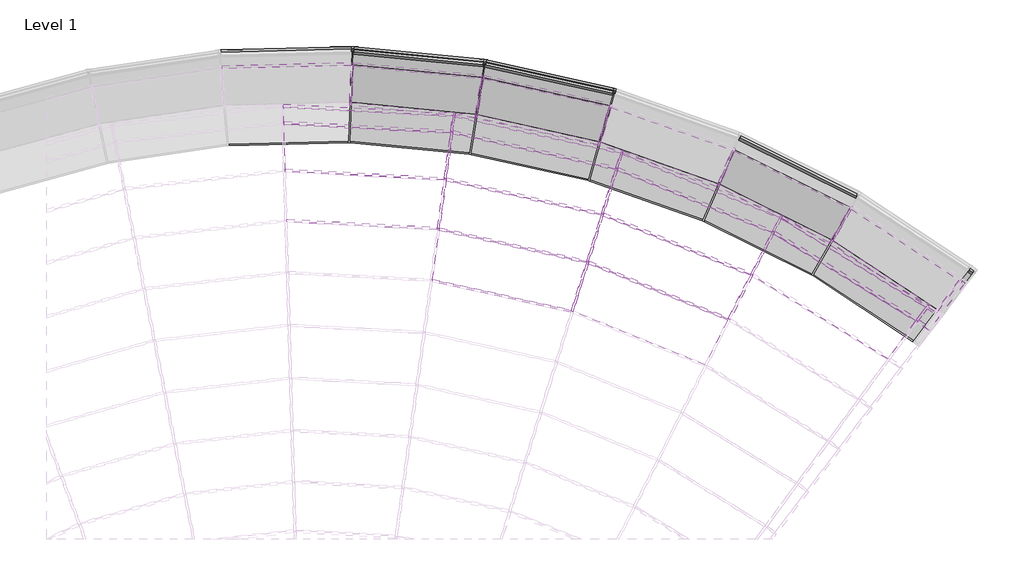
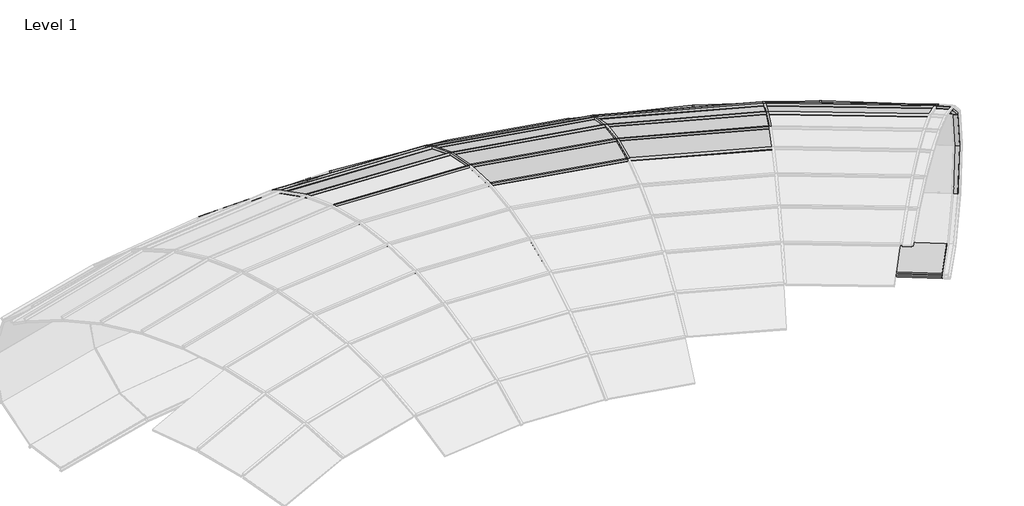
# One storey, part 12 of 23: 71 members, 34 plates.
"""IFC4 building model written with IfcOpenShell, lengths in millimetres."""

from ifc_helpers import new_model, si_unit, origin, place, context, project, spatial, transform, mapped, element, save
from components import member_6de91377, member_1c681369, member_20199af6, member_f0155a20, member_cc44513a, member_775132e8, member_b171f0c8, member_07455e61, member_515abc7c, member_6834bcaf, member_a3fa0b53, member_b335b832, member_0cd36c09, member_d0a40a1c, member_ff9adfd2, member_8c9da58c, member_391bee44, member_01ebdf2a, member_d6b8231b, system_panel_glazed_05378adf, system_panel_glazed_d39a2736, system_panel_glazed_45b67513, system_panel_glazed_45b4e97c, system_panel_glazed_73e5d392, system_panel_glazed_9a1bcf3f, system_panel_glazed_7c15174c, system_panel_glazed_a2a57e74, system_panel_glazed_cdd05a29, system_panel_glazed_56180ac8, system_panel_glazed_9e14ac5f, system_panel_glazed_7dd4ad5a, system_panel_glazed_672f498d

model = new_model("IFC4")

# Units and contexts
model_context = context("Model", 3, world=origin())
ifc_project = project(units=[si_unit("LENGTHUNIT", "METRE", prefix="MILLI")], contexts=[model_context])

# Site, building, storey
site = spatial("IfcSite", under=ifc_project)
building = spatial("IfcBuilding", under=site)
storey = spatial("IfcBuildingStorey", under=building, Name="Level 1", Elevation=0.0)

# Members
placement = place(None, origin())
member_shape = member_6de91377(model_context)
element("IfcMember", 1, ObjectType="Rectangular Mullion : 1\" Square", at=placement, inside=storey, context=model_context, shape_type="MappedRepresentation", body=[
    mapped(member_shape, transform((2866.4116937, -3633.2019198, 2806.2019711), x_axis=(0.2147917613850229, 0.9644166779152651, -0.1541589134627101), y_axis=(0.03351267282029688, 0.15047216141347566, 0.9880460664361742), z_axis=(0.9760847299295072, -0.21739043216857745, 0.0))),
])
member_2_shape = member_1c681369(model_context)
element("IfcMember", 2, ObjectType="Rectangular Mullion : 1\" Square", at=placement, inside=storey, context=model_context, shape_type="MappedRepresentation", body=[
    mapped(member_2_shape, transform((1331.5307397, -2685.4647622, 2676.0506073), x_axis=(0.05134218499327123, 0.9613900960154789, -0.2703572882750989), y_axis=(0.014417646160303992, 0.26997258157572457, 0.9627600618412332), z_axis=(0.9985770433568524, -0.05332812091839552, 0.0))),
])
element("IfcMember", 3, ObjectType="Rectangular Mullion : 1\" Square", at=placement, inside=storey, context=model_context, shape_type="MappedRepresentation", body=[
    mapped(member_2_shape, transform((3043.563615, -3064.6159726, 2676.0506073), x_axis=(0.2092948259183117, 0.9397353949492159, -0.270357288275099), y_axis=(0.05877308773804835, 0.26389162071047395, 0.9627600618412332), z_axis=(0.9760847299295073, -0.21739043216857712, 0.0))),
])
element("IfcMember", 4, ObjectType="Rectangular Mullion : 1\" Square", at=placement, inside=storey, context=model_context, shape_type="MappedRepresentation", body=[
    mapped(member_2_shape, transform((4669.5518199, -3721.1025024, 2676.0506073), x_axis=(0.36150811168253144, 0.8923109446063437, -0.270357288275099), y_axis=(0.10151683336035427, 0.2505741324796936, 0.9627600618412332), z_axis=(0.9268258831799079, -0.37549138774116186, 0.0))),
])
member_3_shape = member_20199af6(model_context)
element("IfcMember", 5, ObjectType="Rectangular Mullion : 1\" Square", at=placement, inside=storey, context=model_context, shape_type="MappedRepresentation", body=[
    mapped(member_3_shape, transform((1409.7407637, -2114.9891047, 2475.91846), x_axis=(0.04926663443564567, 0.9225251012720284, -0.3827796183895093), y_axis=(0.020412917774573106, 0.38223493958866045, 0.9238396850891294), z_axis=(0.9985770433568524, -0.05332812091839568, 0.0))),
])
element("IfcMember", 6, ObjectType="Rectangular Mullion : 1\" Square", at=placement, inside=storey, context=model_context, shape_type="MappedRepresentation", body=[
    mapped(member_3_shape, transform((3214.8459331, -2514.8690753, 2475.91846), x_axis=(0.2008339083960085, 0.9017458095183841, -0.3827796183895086), y_axis=(0.08321262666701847, 0.3736253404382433, 0.9238396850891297), z_axis=(0.9760847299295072, -0.21739043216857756, 0.0))),
])
element("IfcMember", 7, ObjectType="Rectangular Mullion : 1\" Square", at=placement, inside=storey, context=model_context, shape_type="MappedRepresentation", body=[
    mapped(member_3_shape, transform((4929.2094692, -3207.1597149, 2475.91846), x_axis=(0.34689384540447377, 0.8562385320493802, -0.3827796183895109), y_axis=(0.14373045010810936, 0.35477005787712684, 0.9238396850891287), z_axis=(0.9268258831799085, -0.37549138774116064, 0.0))),
])
member_4_shape = member_f0155a20(model_context)
element("IfcMember", 8, ObjectType="Rectangular Mullion : 1\" Square", at=placement, inside=storey, context=model_context, shape_type="MappedRepresentation", body=[
    mapped(member_4_shape, transform((1484.158, -1572.1786095, 2208.6526723), x_axis=(0.046491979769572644, 0.8705692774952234, -0.4898444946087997), y_axis=(0.026122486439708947, 0.48914746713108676, 0.8718098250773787), z_axis=(0.9985770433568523, -0.05332812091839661, 0.0))),
])
element("IfcMember", 9, ObjectType="Rectangular Mullion : 1\" Square", at=placement, inside=storey, context=model_context, shape_type="MappedRepresentation", body=[
    mapped(member_4_shape, transform((3377.8219316, -1991.782101, 2208.6526723), x_axis=(0.1895231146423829, 0.8509602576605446, -0.4898444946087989), y_axis=(0.10648750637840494, 0.4781297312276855, 0.8718098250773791), z_axis=(0.9760847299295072, -0.2173904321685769, 0.0))),
])
element("IfcMember", 10, ObjectType="Rectangular Mullion : 1\" Square", at=placement, inside=storey, context=model_context, shape_type="MappedRepresentation", body=[
    mapped(member_4_shape, transform((5176.2750457, -2718.1405336, 2208.6526723), x_axis=(0.3273570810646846, 0.8080159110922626, -0.4898444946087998), y_axis=(0.18393238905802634, 0.45400055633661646, 0.8718098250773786), z_axis=(0.926825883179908, -0.375491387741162, 0.0))),
])
element("IfcMember", 11, ObjectType="Rectangular Mullion : 1\" Square", at=placement, inside=storey, context=model_context, shape_type="MappedRepresentation", body=[
    mapped(member_4_shape, transform((6830.1995383, -3731.3354549, 2208.6526723), x_axis=(0.45621414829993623, 0.7429138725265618, -0.4898444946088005), y_axis=(0.25633341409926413, 0.41742162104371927, 0.8718098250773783), z_axis=(0.8521512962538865, -0.5232954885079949, 0.0))),
])
member_5_shape = member_cc44513a(model_context)
element("IfcMember", 12, ObjectType="Rectangular Mullion : 1\" Square", at=placement, inside=storey, context=model_context, shape_type="MappedRepresentation", body=[
    mapped(member_5_shape, transform((6979.6758413, -3841.6645549, 2208.6526723), x_axis=(0.52163414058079, 0.6975731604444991, -0.49121228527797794), y_axis=(0.2941691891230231, 0.3933878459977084, 0.8710398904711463), z_axis=(0.8008509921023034, -0.5988636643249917, 0.0))),
])
member_6_shape = member_775132e8(model_context)
element("IfcMember", 13, ObjectType="Rectangular Mullion : 1\" Square", at=placement, inside=storey, context=model_context, shape_type="MappedRepresentation", body=[
    mapped(member_6_shape, transform((1512.2259527, -1367.4467482, 2085.6089632), x_axis=(0.045779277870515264, 0.8572238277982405, -0.5129050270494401), y_axis=(0.02735226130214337, 0.5121751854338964, 0.8584453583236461), z_axis=(0.9985770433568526, -0.05332812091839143, 0.0))),
])
element("IfcMember", 14, ObjectType="Rectangular Mullion : 1\" Square", at=placement, inside=storey, context=model_context, shape_type="MappedRepresentation", body=[
    mapped(member_6_shape, transform((3439.291597, -1794.4893611, 2085.6089632), x_axis=(0.18661780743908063, 0.8379154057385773, -0.5129050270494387), y_axis=(0.11150064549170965, 0.500638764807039, 0.8584453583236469), z_axis=(0.9760847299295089, -0.21739043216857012, 0.0))),
])
element("IfcMember", 15, ObjectType="Rectangular Mullion : 1\" Square", at=placement, inside=storey, context=model_context, shape_type="MappedRepresentation", body=[
    mapped(member_6_shape, transform((5269.4607813, -2533.6971449, 2085.6089632), x_axis=(0.3223388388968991, 0.7956293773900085, -0.5129050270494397), y_axis=(0.1925914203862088, 0.47537365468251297, 0.8584453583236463), z_axis=(0.9268258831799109, -0.37549138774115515, 0.0))),
])
element("IfcMember", 16, ObjectType="Rectangular Mullion : 1\" Square", at=placement, inside=storey, context=model_context, shape_type="MappedRepresentation", body=[
    mapped(member_6_shape, transform((6952.5459728, -3564.7992878, 2085.6089632), x_axis=(0.4492205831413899, 0.7315253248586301, -0.5129050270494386), y_axis=(0.2684008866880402, 0.43707268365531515, 0.858445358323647), z_axis=(0.8521512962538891, -0.5232954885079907, 0.0))),
])
member_7_shape = member_b171f0c8(model_context)
element("IfcMember", 17, ObjectType="Rectangular Mullion : 1\" Square", at=placement, inside=storey, context=model_context, shape_type="MappedRepresentation", body=[
    mapped(member_7_shape, transform((347.4829914, -610.5149365, 1116.1918244), x_axis=(-0.0006524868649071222, 0.026521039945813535, -0.9996480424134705), y_axis=(-0.024586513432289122, 0.9993456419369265, 0.02652906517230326), z_axis=(0.9996974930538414, 0.02459516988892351, 0.0))),
])
element("IfcMember", 18, ObjectType="Rectangular Mullion : 1\" Square", at=placement, inside=storey, context=model_context, shape_type="MappedRepresentation", body=[
    mapped(member_7_shape, transform((1867.0706775, -756.638217, 1116.1918244), x_axis=(0.0025659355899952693, 0.026404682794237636, -0.9996480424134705), y_axis=(0.09668763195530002, 0.9949611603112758, 0.026529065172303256), z_axis=(0.9953114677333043, -0.09672167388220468, 0.0))),
])
element("IfcMember", 19, ObjectType="Rectangular Mullion : 1\" Square", at=placement, inside=storey, context=model_context, shape_type="MappedRepresentation", body=[
    mapped(member_7_shape, transform((3357.7551818, -1085.8166758, 1116.1918244), x_axis=(0.005746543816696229, 0.025899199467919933, -0.9996480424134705), y_axis=(0.21653689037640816, 0.9759139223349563, 0.02652906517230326), z_axis=(0.9762575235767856, -0.2166131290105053, 0.0))),
])
member_8_shape = member_07455e61(model_context)
element("IfcMember", 20, ObjectType="Rectangular Mullion : 1\" Square", at=placement, inside=storey, context=model_context, shape_type="MappedRepresentation", body=[
    mapped(member_8_shape, transform((341.871143, -765.7378742, 526.7119632), x_axis=(0.012706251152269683, -0.5164594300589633, -0.856217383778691), y_axis=(-0.021058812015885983, 0.8559583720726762, -0.5166157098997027), z_axis=(0.9996974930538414, 0.024595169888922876, 0.0))),
])
element("IfcMember", 21, ObjectType="Rectangular Mullion : 1\" Square", at=placement, inside=storey, context=model_context, shape_type="MappedRepresentation", body=[
    mapped(member_8_shape, transform((1842.6914644, -910.0373931, 526.7119632), x_axis=(-0.049967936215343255, -0.5141935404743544, -0.8562173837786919), y_axis=(0.0828147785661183, 0.8522029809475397, -0.5166157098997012), z_axis=(0.995311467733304, -0.09672167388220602, 0.0))),
])
element("IfcMember", 22, ObjectType="Rectangular Mullion : 1\" Square", at=placement, inside=storey, context=model_context, shape_type="MappedRepresentation", body=[
    mapped(member_8_shape, transform((3314.9678808, -1235.1314444, 526.7119632), x_axis=(-0.11190574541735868, -0.5043499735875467, -0.856217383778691), y_axis=(0.1854679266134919, 0.8358886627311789, -0.5166157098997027), z_axis=(0.9762575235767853, -0.21661312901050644, 0.0))),
])
member_9_shape = member_515abc7c(model_context)
element("IfcMember", 23, ObjectType="Rectangular Mullion : 1\" Square", at=placement, inside=storey, context=model_context, shape_type="MappedRepresentation", body=[
    mapped(member_9_shape, transform((340.752181, -796.6882063, 1696.6281859), x_axis=(-0.013804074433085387, 0.5610816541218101, -0.8276453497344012), y_axis=(-0.02035607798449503, 0.8273949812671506, 0.5612514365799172), z_axis=(0.9996974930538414, 0.024595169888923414, 0.0))),
])
element("IfcMember", 24, ObjectType="Rectangular Mullion : 1\" Square", at=placement, inside=storey, context=model_context, shape_type="MappedRepresentation", body=[
    mapped(member_9_shape, transform((1837.8304255, -940.6240802, 1696.6281859), x_axis=(0.054285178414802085, 0.5586199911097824, -0.8276453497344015), y_axis=(0.08005124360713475, 0.8237649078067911, 0.5612514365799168), z_axis=(0.9953114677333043, -0.09672167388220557, 0.0))),
])
element("IfcMember", 25, ObjectType="Rectangular Mullion : 1\" Square", at=placement, inside=storey, context=model_context, shape_type="MappedRepresentation", body=[
    mapped(member_9_shape, transform((3306.4364022, -1264.9037302, 1696.6281859), x_axis=(0.12157442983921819, 0.547925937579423, -0.8276453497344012), y_axis=(0.17927884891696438, 0.8079949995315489, 0.5612514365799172), z_axis=(0.9762575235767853, -0.21661312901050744, 0.0))),
])
member_10_shape = member_6834bcaf(model_context)
element("IfcMember", 26, ObjectType="Rectangular Mullion : 1\" Square", at=placement, inside=storey, context=model_context, shape_type="MappedRepresentation", body=[
    mapped(member_10_shape, transform((325.6802554, -1213.5755484, 113.4427618), x_axis=(0.022043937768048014, -0.89599988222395, -0.4435067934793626), y_axis=(-0.010908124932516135, 0.4433726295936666, -0.8962710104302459), z_axis=(0.9996974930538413, 0.024595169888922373, 0.0))),
])
element("IfcMember", 27, ObjectType="Rectangular Mullion : 1\" Square", at=placement, inside=storey, context=model_context, shape_type="MappedRepresentation", body=[
    mapped(member_10_shape, transform((1772.3543722, -1352.6132856, 113.4427618), x_axis=(-0.08668883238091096, -0.892068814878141, -0.44350679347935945), y_axis=(0.04289671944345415, 0.44142739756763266, -0.8962710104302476), z_axis=(0.9953114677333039, -0.09672167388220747, 0.0))),
])
element("IfcMember", 28, ObjectType="Rectangular Mullion : 1\" Square", at=placement, inside=storey, context=model_context, shape_type="MappedRepresentation", body=[
    mapped(member_10_shape, transform((3191.5211425, -1665.9233083, 113.4427618), x_axis=(-0.19414406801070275, -0.8749913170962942, -0.443506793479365), y_axis=(0.0960693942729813, 0.43297684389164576, -0.8962710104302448), z_axis=(0.9762575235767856, -0.2166131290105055, 0.0))),
])
element("IfcMember", 29, ObjectType="Rectangular Mullion : 1\" Square", at=placement, inside=storey, context=model_context, shape_type="MappedRepresentation", body=[
    mapped(member_10_shape, transform((4562.2662862, -2148.8883624, 113.4427618), x_axis=(-0.29873819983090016, -0.8450190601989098, -0.44350679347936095), y_axis=(0.14782629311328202, 0.41814550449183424, -0.8962710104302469), z_axis=(0.9428164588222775, -0.3333123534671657, 0.0))),
])
element("IfcMember", 30, ObjectType="Rectangular Mullion : 1\" Square", at=placement, inside=storey, context=model_context, shape_type="MappedRepresentation", body=[
    mapped(member_10_shape, transform((5864.3891132, -2794.3909852, 113.4427618), x_axis=(-0.3989298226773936, -0.8025937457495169, -0.44350679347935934), y_axis=(0.1974046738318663, 0.39715194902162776, -0.8962710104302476), z_axis=(0.8954810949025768, -0.44509954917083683, 0.0))),
])
member_11_shape = member_a3fa0b53(model_context)
element("IfcMember", 31, ObjectType="Rectangular Mullion : 1\" Square", at=placement, inside=storey, context=model_context, shape_type="MappedRepresentation", body=[
    mapped(member_11_shape, transform((308.208576, -1696.8397434, 0.0), x_axis=(0.023942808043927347, -0.9731815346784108, -0.22878907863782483), y_axis=(-0.005627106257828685, 0.2287198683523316, -0.9734760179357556), z_axis=(0.9996974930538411, 0.02459516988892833, 0.0))),
])
element("IfcMember", 32, ObjectType="Rectangular Mullion : 1\" Square", at=placement, inside=storey, context=model_context, shape_type="MappedRepresentation", body=[
    mapped(member_11_shape, transform((1696.4532137, -1830.199462, 0.0), x_axis=(-0.09415622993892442, -0.96891184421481, -0.22878907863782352), y_axis=(0.022128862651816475, 0.22771639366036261, -0.9734760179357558), z_axis=(0.9953114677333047, -0.09672167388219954, 0.0))),
])
element("IfcMember", 33, ObjectType="Rectangular Mullion : 1\" Square", at=placement, inside=storey, context=model_context, shape_type="MappedRepresentation", body=[
    mapped(member_11_shape, transform((3058.3090614, -2130.793272, 0.0), x_axis=(-0.21086768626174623, -0.9503632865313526, -0.22878907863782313), y_axis=(0.04955871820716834, 0.22335705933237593, -0.9734760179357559), z_axis=(0.9762575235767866, -0.21661312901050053, 0.0))),
])
element("IfcMember", 34, ObjectType="Rectangular Mullion : 1\" Square", at=placement, inside=storey, context=model_context, shape_type="MappedRepresentation", body=[
    mapped(member_11_shape, transform((4373.7064307, -2594.1913184, 0.0), x_axis=(-0.32447158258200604, -0.9178092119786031, -0.22878907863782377), y_axis=(0.07625822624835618, 0.215706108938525, -0.9734760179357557), z_axis=(0.9428164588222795, -0.33331235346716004, 0.0))),
])
element("IfcMember", 35, ObjectType="Rectangular Mullion : 1\" Square", at=placement, inside=storey, context=model_context, shape_type="MappedRepresentation", body=[
    mapped(member_11_shape, transform((5623.2602924, -3213.5644976, 0.0), x_axis=(-0.43329373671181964, -0.8717293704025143, -0.2287890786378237), y_axis=(0.10183391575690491, 0.2048762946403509, -0.9734760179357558), z_axis=(0.8954810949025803, -0.44509954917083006, 0.0))),
])
element("IfcMember", 36, ObjectType="Rectangular Mullion : 1\" Square", at=placement, inside=storey, context=model_context, shape_type="MappedRepresentation", body=[
    mapped(member_11_shape, transform((6788.5559541, -3979.7850987, 0.0), x_axis=(-0.5357304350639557, -0.8128028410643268, -0.228789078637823), y_axis=(0.12590887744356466, 0.19102721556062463, -0.9734760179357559), z_axis=(0.8349490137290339, -0.5503273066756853, 0.0))),
])
member_12_shape = member_b335b832(model_context)
element("IfcMember", 37, ObjectType="Rectangular Mullion : 1\" Square", at=placement, inside=storey, context=model_context, shape_type="MappedRepresentation", body=[
    mapped(member_12_shape, transform((349.1305982, -1266.6655463, 2085.6089632), x_axis=(-0.07441584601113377, -0.7657740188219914, 0.6387898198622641), y_axis=(0.061784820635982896, 0.6357948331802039, 0.7693812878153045), z_axis=(-0.9953114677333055, 0.09672167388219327, 0.0))),
])
element("IfcMember", 38, ObjectType="Rectangular Mullion : 1\" Square", at=placement, inside=storey, context=model_context, shape_type="MappedRepresentation", body=[
    mapped(member_12_shape, transform((1789.1988854, -1408.1536208, 2085.6089632), x_axis=(-0.16665808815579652, -0.7511142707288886, 0.6387898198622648), y_axis=(0.13837026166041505, 0.6236233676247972, 0.7693812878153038), z_axis=(-0.9762575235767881, 0.21661312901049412, 0.0))),
])
element("IfcMember", 39, ObjectType="Rectangular Mullion : 1\" Square", at=placement, inside=storey, context=model_context, shape_type="MappedRepresentation", body=[
    mapped(member_12_shape, transform((3201.5115884, -1723.0954821, 2085.6089632), x_axis=(-0.25644428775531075, -0.7253853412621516, 0.6387898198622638), y_axis=(0.21291653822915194, 0.6022615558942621, 0.7693812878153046), z_axis=(-0.9428164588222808, 0.3333123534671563, 0.0))),
])
element("IfcMember", 40, ObjectType="Rectangular Mullion : 1\" Square", at=placement, inside=storey, context=model_context, shape_type="MappedRepresentation", body=[
    mapped(member_12_shape, transform((4565.2554354, -2206.8498276, 2085.6089632), x_axis=(-0.3424512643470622, -0.6889663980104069, 0.6387898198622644), y_axis=(0.28432506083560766, 0.5720242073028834, 0.7693812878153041), z_axis=(-0.8954810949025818, 0.44509954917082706, 0.0))),
])
element("IfcMember", 41, ObjectType="Rectangular Mullion : 1\" Square", at=placement, inside=storey, context=model_context, shape_type="MappedRepresentation", body=[
    mapped(member_12_shape, transform((5860.3329145, -2852.2875629, 2085.6089632), x_axis=(-0.42341153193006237, -0.6423941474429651, 0.6387898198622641), y_axis=(0.35154348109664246, 0.533356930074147, 0.7693812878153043), z_axis=(-0.8349490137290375, 0.5503273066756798, 0.0))),
])
member_13_shape = member_0cd36c09(model_context)
element("IfcMember", 42, ObjectType="Rectangular Mullion : 1\" Square", at=placement, inside=storey, context=model_context, shape_type="MappedRepresentation", body=[
    mapped(member_13_shape, transform((1344.2126682, -2686.1420293, 2676.0506073), x_axis=(0.9907327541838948, -0.13582565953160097, 0.0), y_axis=(0.0445916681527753, 0.3252583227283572, 0.9445732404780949), z_axis=(-0.12829728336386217, -0.9358196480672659, 0.32830076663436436))),
])
element("IfcMember", 43, ObjectType="Rectangular Mullion : 1\" Square", at=placement, inside=storey, context=model_context, shape_type="MappedRepresentation", body=[
    mapped(member_13_shape, transform((2878.8079698, -3635.9627782, 2806.2019711), x_axis=(0.9547335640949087, -0.29746230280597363, 0.0), y_axis=(0.06350906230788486, 0.20383837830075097, 0.9769424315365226), z_axis=(-0.2906035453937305, -0.9327197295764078, 0.2135028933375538))),
])
element("IfcMember", 44, ObjectType="Rectangular Mullion : 1\" Square", at=placement, inside=storey, context=model_context, shape_type="MappedRepresentation", body=[
    mapped(member_13_shape, transform((3055.959891, -3067.3768311, 2676.0506073), x_axis=(0.9547335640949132, -0.29746230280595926, 0.0), y_axis=(0.09765710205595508, 0.3134397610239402, 0.9445732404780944), z_axis=(-0.28097493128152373, -0.9018157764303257, 0.3283007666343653))),
])
element("IfcMember", 45, ObjectType="Rectangular Mullion : 1\" Square", at=placement, inside=storey, context=model_context, shape_type="MappedRepresentation", body=[
    mapped(member_13_shape, transform((4681.3225086, -3725.871243, 2676.0506073), x_axis=(0.8925533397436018, -0.4509418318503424, 0.0), y_axis=(0.14804454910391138, 0.2930259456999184, 0.9445732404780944), z_axis=(-0.4259475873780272, -0.8430820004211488, 0.32830076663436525))),
])
member_14_shape = member_d0a40a1c(model_context)
element("IfcMember", 46, ObjectType="Rectangular Mullion : 1\" Square", at=placement, inside=storey, context=model_context, shape_type="MappedRepresentation", body=[
    mapped(member_14_shape, transform((1422.4226921, -2115.6663718, 2475.91846), x_axis=(0.9907327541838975, -0.1358256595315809, 0.0), y_axis=(0.059549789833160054, 0.43436510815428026, 0.8987662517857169), z_axis=(-0.1220755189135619, -0.8904371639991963, 0.4384281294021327))),
])
element("IfcMember", 47, ObjectType="Rectangular Mullion : 1\" Square", at=placement, inside=storey, context=model_context, shape_type="MappedRepresentation", body=[
    mapped(member_14_shape, transform((3227.2422092, -2517.6299338, 2475.91846), x_axis=(0.954733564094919, -0.2974623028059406, 0.0), y_axis=(0.13041584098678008, 0.41858205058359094, 0.8987662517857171), z_axis=(-0.2673490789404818, -0.858082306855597, 0.43842812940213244))),
])
element("IfcMember", 48, ObjectType="Rectangular Mullion : 1\" Square", at=placement, inside=storey, context=model_context, shape_type="MappedRepresentation", body=[
    mapped(member_14_shape, transform((4940.9801579, -3211.9284555, 2475.91846), x_axis=(0.8925533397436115, -0.4509418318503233, 0.0), y_axis=(0.19770558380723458, 0.39132049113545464, 0.8987662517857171), z_axis=(-0.4052912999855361, -0.8021968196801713, 0.43842812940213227))),
])
member_15_shape = member_ff9adfd2(model_context)
element("IfcMember", 49, ObjectType="Rectangular Mullion : 1\" Square", at=placement, inside=storey, context=model_context, shape_type="MappedRepresentation", body=[
    mapped(member_15_shape, transform((1496.8399284, -1572.8558767, 2208.6526723), x_axis=(0.9907327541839, -0.13582565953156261, 0.0), y_axis=(0.06948914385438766, 0.5068642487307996, 0.8592205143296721), z_axis=(-0.11670419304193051, -0.8512579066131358, 0.5116054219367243))),
])
element("IfcMember", 50, ObjectType="Rectangular Mullion : 1\" Square", at=placement, inside=storey, context=model_context, shape_type="MappedRepresentation", body=[
    mapped(member_15_shape, transform((3390.2182077, -1994.5429595, 2208.6526723), x_axis=(0.9547335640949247, -0.2974623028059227, 0.0), y_axis=(0.15218332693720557, 0.48844686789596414, 0.8592205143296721), z_axis=(-0.255585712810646, -0.8203266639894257, 0.5116054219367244))),
])
element("IfcMember", 51, ObjectType="Rectangular Mullion : 1\" Square", at=placement, inside=storey, context=model_context, shape_type="MappedRepresentation", body=[
    mapped(member_15_shape, transform((5188.0457344, -2722.9092742, 2208.6526723), x_axis=(0.8925533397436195, -0.4509418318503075, 0.0), y_axis=(0.2307042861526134, 0.4566351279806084, 0.8592205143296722), z_axis=(-0.38745847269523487, -0.7669001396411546, 0.5116054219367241))),
])
element("IfcMember", 52, ObjectType="Rectangular Mullion : 1\" Square", at=placement, inside=storey, context=model_context, shape_type="MappedRepresentation", body=[
    mapped(member_15_shape, transform((6841.0218598, -3737.9813076, 2208.6526723), x_axis=(0.8058972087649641, -0.5920554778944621, 0.0), y_axis=(0.3028987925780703, 0.4123013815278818, 0.8592205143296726), z_axis=(-0.5087062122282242, -0.6924434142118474, 0.5116054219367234))),
])
member_16_shape = member_8c9da58c(model_context)
element("IfcMember", 53, ObjectType="Rectangular Mullion : 1\" Square", at=placement, inside=storey, context=model_context, shape_type="MappedRepresentation", body=[
    mapped(member_16_shape, transform((353.4483391, -796.3758477, 1696.6281859), x_axis=(0.9993471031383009, -0.03612986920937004, 0.0), y_axis=(0.03440139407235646, 0.951537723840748, 0.30560187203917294), z_axis=(-0.01104135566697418, -0.30540234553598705, 0.9521593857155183))),
])
element("IfcMember", 54, ObjectType="Rectangular Mullion : 1\" Square", at=placement, inside=storey, context=model_context, shape_type="MappedRepresentation", body=[
    mapped(member_16_shape, transform((360.1791495, -610.2025778, 1116.1918244), x_axis=(0.9993471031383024, -0.03612986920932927, 0.0), y_axis=(0.034937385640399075, 0.9663631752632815, -0.2547971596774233), z_axis=(0.00920578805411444, 0.2546308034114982, 0.9669945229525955))),
])
element("IfcMember", 55, ObjectType="Rectangular Mullion : 1\" Square", at=placement, inside=storey, context=model_context, shape_type="MappedRepresentation", body=[
    mapped(member_16_shape, transform((1850.4708811, -941.8524455, 1696.6281859), x_axis=(0.9876054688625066, -0.15695680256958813, 0.0), y_axis=(0.14944789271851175, 0.9403578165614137, 0.3056018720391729), z_axis=(-0.04796629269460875, -0.30181408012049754, 0.9521593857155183))),
])
element("IfcMember", 56, ObjectType="Rectangular Mullion : 1\" Square", at=placement, inside=storey, context=model_context, shape_type="MappedRepresentation", body=[
    mapped(member_16_shape, transform((1879.7111332, -757.8665822, 1116.1918244), x_axis=(0.987605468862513, -0.15695680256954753, 0.0), y_axis=(0.15177636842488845, 0.9550090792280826, -0.2547971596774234), z_axis=(0.03999214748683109, 0.2516390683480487, 0.9669945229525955))),
])
element("IfcMember", 57, ObjectType="Rectangular Mullion : 1\" Square", at=placement, inside=storey, context=model_context, shape_type="MappedRepresentation", body=[
    mapped(member_16_shape, transform((3318.8348727, -1267.654717, 1696.6281859), x_axis=(0.9613094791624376, -0.2754706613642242, 0.0), y_axis=(0.26229197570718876, 0.9153198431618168, 0.3056018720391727), z_axis=(-0.08418434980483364, -0.29377797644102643, 0.9521593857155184))),
])
element("IfcMember", 58, ObjectType="Rectangular Mullion : 1\" Square", at=placement, inside=storey, context=model_context, shape_type="MappedRepresentation", body=[
    mapped(member_16_shape, transform((3370.1536524, -1088.5676625, 1116.1918244), x_axis=(0.9613094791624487, -0.2754706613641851, 0.0), y_axis=(0.2663786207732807, 0.9295810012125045, -0.2547971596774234), z_axis=(0.070189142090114, 0.2449389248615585, 0.9669945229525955))),
])
member_17_shape = member_391bee44(model_context)
element("IfcMember", 59, ObjectType="Rectangular Mullion : 1\" Square", at=placement, inside=storey, context=model_context, shape_type="MappedRepresentation", body=[
    mapped(member_17_shape, transform((354.5673011, -765.4255156, 526.7119632), x_axis=(0.999347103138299, -0.03612986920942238, 0.0), y_axis=(0.024493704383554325, 0.6774924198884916, -0.7351218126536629), z_axis=(0.026559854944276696, 0.7346418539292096, 0.6779350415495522))),
])
element("IfcMember", 60, ObjectType="Rectangular Mullion : 1\" Square", at=placement, inside=storey, context=model_context, shape_type="MappedRepresentation", body=[
    mapped(member_17_shape, transform((1855.3319201, -911.2657583, 526.7119632), x_axis=(0.9876054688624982, -0.15695680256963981, 0.0), y_axis=(0.10640651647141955, 0.6695323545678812, -0.7351218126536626), z_axis=(0.11538236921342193, 0.7260103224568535, 0.6779350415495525))),
])
element("IfcMember", 61, ObjectType="Rectangular Mullion : 1\" Square", at=placement, inside=storey, context=model_context, shape_type="MappedRepresentation", body=[
    mapped(member_17_shape, transform((3327.3663514, -1237.8824311, 526.7119632), x_axis=(0.961309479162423, -0.27547066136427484, 0.0), y_axis=(0.1867512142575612, 0.6517053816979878, -0.7351218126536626), z_axis=(0.2025044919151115, 0.7066795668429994, 0.6779350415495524))),
])
member_18_shape = member_01ebdf2a(model_context)
element("IfcMember", 62, ObjectType="Rectangular Mullion : 1\" Square", at=placement, inside=storey, context=model_context, shape_type="MappedRepresentation", body=[
    mapped(member_18_shape, transform((338.3764136, -1213.2631897, 113.4427618), x_axis=(0.9993471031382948, -0.03612986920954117, 0.0), y_axis=(0.00825167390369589, 0.22824014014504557, -0.9735698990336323), z_axis=(0.03517495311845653, 0.9729342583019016, 0.22838925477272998))),
])
element("IfcMember", 63, ObjectType="Rectangular Mullion : 1\" Square", at=placement, inside=storey, context=model_context, shape_type="MappedRepresentation", body=[
    mapped(member_18_shape, transform((1784.9948278, -1353.8416509, 113.4427618), x_axis=(0.9876054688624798, -0.15695680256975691, 0.0), y_axis=(0.035847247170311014, 0.22555847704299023, -0.9735698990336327), z_axis=(0.1528084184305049, 0.9615029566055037, 0.22838925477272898))),
])
element("IfcMember", 64, ObjectType="Rectangular Mullion : 1\" Square", at=placement, inside=storey, context=model_context, shape_type="MappedRepresentation", body=[
    mapped(member_18_shape, transform((3203.9196131, -1668.6742951, 113.4427618), x_axis=(0.9613094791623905, -0.2754706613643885, 0.0), y_axis=(0.06291453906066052, 0.21955275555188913, -0.9735698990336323), z_axis=(0.2681899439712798, 0.9359019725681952, 0.22838925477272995))),
])
element("IfcMember", 65, ObjectType="Rectangular Mullion : 1\" Square", at=placement, inside=storey, context=model_context, shape_type="MappedRepresentation", body=[
    mapped(member_18_shape, transform((4574.2400553, -2153.1214293, 113.4427618), x_axis=(0.9208466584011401, -0.38992490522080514, 0.0), y_axis=(0.08905465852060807, 0.2103114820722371, -0.9735698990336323), z_axis=(0.3796191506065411, 0.8965085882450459, 0.22838925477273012))),
])
element("IfcMember", 66, ObjectType="Rectangular Mullion : 1\" Square", at=placement, inside=storey, context=model_context, shape_type="MappedRepresentation", body=[
    mapped(member_18_shape, transform((5875.7617231, -2800.0437495, 113.4427618), x_axis=(0.8668133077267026, -0.4986328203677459, 0.0), y_axis=(0.11388237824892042, 0.19797084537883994, -0.9735698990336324), z_axis=(0.48545390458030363, 0.8439033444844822, 0.22838925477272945))),
])
member_19_shape = member_d6b8231b(model_context)
element("IfcMember", 67, ObjectType="Rectangular Mullion : 1\" Square", at=placement, inside=storey, context=model_context, shape_type="MappedRepresentation", body=[
    mapped(member_19_shape, transform((5849.729062, -2845.2984061, 2085.6089632), x_axis=(0.8668133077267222, -0.49863282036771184, 0.0), y_axis=(0.31817352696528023, 0.5531064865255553, 0.7699602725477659), z_axis=(-0.38392746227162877, -0.6674118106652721, 0.6380918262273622))),
])
element("IfcMember", 68, ObjectType="Rectangular Mullion : 1\" Square", at=placement, inside=storey, context=model_context, shape_type="MappedRepresentation", body=[
    mapped(member_19_shape, transform((4553.8828255, -2201.1970633, 2085.6089632), x_axis=(0.9208466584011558, -0.38992490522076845, 0.0), y_axis=(0.2488078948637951, 0.5875847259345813, 0.7699602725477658), z_axis=(-0.3002266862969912, -0.7090153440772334, 0.6380918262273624))),
])
element("IfcMember", 69, ObjectType="Rectangular Mullion : 1\" Square", at=placement, inside=storey, context=model_context, shape_type="MappedRepresentation", body=[
    mapped(member_19_shape, transform((3189.5378194, -1718.8624152, 2085.6089632), x_axis=(0.9613094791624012, -0.27547066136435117, 0.0), y_axis=(0.17577557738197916, 0.613403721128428, 0.7699602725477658), z_axis=(-0.212101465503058, -0.7401701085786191, 0.6380918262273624))),
])
element("IfcMember", 70, ObjectType="Rectangular Mullion : 1\" Square", at=placement, inside=storey, context=model_context, shape_type="MappedRepresentation", body=[
    mapped(member_19_shape, transform((1776.8004148, -1405.402634, 2085.6089632), x_axis=(0.9876054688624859, -0.15695680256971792, 0.0), y_axis=(0.10015285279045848, 0.6301829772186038, 0.7699602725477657), z_axis=(-0.12085050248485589, -0.7604169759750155, 0.6380918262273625))),
])
element("IfcMember", 71, ObjectType="Rectangular Mullion : 1\" Square", at=placement, inside=storey, context=model_context, shape_type="MappedRepresentation", body=[
    mapped(member_19_shape, transform((336.4901425, -1265.4371811, 2085.6089632), x_axis=(0.9993471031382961, -0.03612986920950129, 0.0), y_axis=(0.023054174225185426, 0.637675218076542, 0.7699602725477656), z_axis=(-0.027818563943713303, -0.7694575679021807, 0.6380918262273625))),
])

# Plates
system_panel_glazed_shape = system_panel_glazed_05378adf(model_context)
element("IfcPlate", 72, ObjectType="System Panel : Glazed", at=placement, inside=storey, context=model_context, shape_type="MappedRepresentation", body=[
    mapped(system_panel_glazed_shape, transform((2073.762009, -3443.9563869, 2803.4815699), x_axis=(0.9760847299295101, -0.21739043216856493, 0.0), y_axis=(-0.046566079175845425, -0.2090820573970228, -0.9767887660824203), z_axis=(0.21234453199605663, 0.9534285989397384, -0.2142048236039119))),
])
element("IfcPlate", 73, ObjectType="System Panel : Glazed", at=placement, inside=storey, context=model_context, shape_type="MappedRepresentation", body=[
    mapped(system_panel_glazed_shape, transform((3650.4454164, -3935.1969746, 2803.4815699), x_axis=(0.9268258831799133, -0.3754913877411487, 0.0), y_axis=(-0.08043206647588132, -0.1985305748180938, -0.97678876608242), z_axis=(0.3667757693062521, 0.9053131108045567, -0.21420482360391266))),
])
system_panel_glazed_2_shape = system_panel_glazed_d39a2736(model_context)
element("IfcPlate", 74, ObjectType="System Panel : Glazed", at=placement, inside=storey, context=model_context, shape_type="MappedRepresentation", body=[
    mapped(system_panel_glazed_2_shape, transform((2202.6931431, -2865.054593, 2671.8683773), x_axis=(0.9760847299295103, -0.21739043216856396, 0.0), y_axis=(-0.07158872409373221, -0.3214339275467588, -0.9442220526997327), z_axis=(0.2052648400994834, 0.9216407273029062, -0.32930945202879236))),
])
element("IfcPlate", 75, ObjectType="System Panel : Glazed", at=placement, inside=storey, context=model_context, shape_type="MappedRepresentation", body=[
    mapped(system_panel_glazed_2_shape, transform((3873.1439499, -3385.5098932, 2671.8683773), x_axis=(0.926825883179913, -0.3754913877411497, 0.0), y_axis=(-0.12365286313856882, -0.30521252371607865, -0.9442220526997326), z_axis=(0.35454724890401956, 0.87512943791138, -0.32930945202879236))),
])
system_panel_glazed_3_shape = system_panel_glazed_45b67513(model_context)
element("IfcPlate", 76, ObjectType="System Panel : Glazed", at=placement, inside=storey, context=model_context, shape_type="MappedRepresentation", body=[
    mapped(system_panel_glazed_3_shape, transform((499.8266436, -2054.9729278, 2470.3349411), x_axis=(0.9985770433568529, -0.05332812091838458, 0.0), y_axis=(-0.023445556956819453, -0.43902156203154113, -0.8981705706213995), z_axis=(0.047897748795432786, 0.8968925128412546, -0.4396471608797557))),
])
element("IfcPlate", 77, ObjectType="System Panel : Glazed", at=placement, inside=storey, context=model_context, shape_type="MappedRepresentation", body=[
    mapped(system_panel_glazed_3_shape, transform((2327.3121725, -2305.5141825, 2470.3349411), x_axis=(0.9760847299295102, -0.21739043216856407, 0.0), y_axis=(-0.09557508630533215, -0.4291328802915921, -0.8981705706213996), z_axis=(0.1952536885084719, 0.876690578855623, -0.43964716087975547))),
])
element("IfcPlate", 78, ObjectType="System Panel : Glazed", at=placement, inside=storey, context=model_context, shape_type="MappedRepresentation", body=[
    mapped(system_panel_glazed_3_shape, transform((4088.394326, -2854.2071085, 2470.3349411), x_axis=(0.926825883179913, -0.37549138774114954, 0.0), y_axis=(-0.1650837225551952, -0.40747636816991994, -0.8981705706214), z_axis=(0.33725531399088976, 0.8324477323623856, -0.4396471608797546))),
])
element("IfcPlate", 79, ObjectType="System Panel : Glazed", at=placement, inside=storey, context=model_context, shape_type="MappedRepresentation", body=[
    mapped(system_panel_glazed_3_shape, transform((5734.7800998, -3686.0052585, 2470.3349411), x_axis=(0.852151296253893, -0.5232954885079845, 0.0), y_axis=(-0.23006537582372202, -0.37464589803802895, -0.8981705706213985), z_axis=(0.4700086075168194, 0.7653772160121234, -0.43964716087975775))),
])
system_panel_glazed_4_shape = system_panel_glazed_45b4e97c(model_context)
element("IfcPlate", 80, ObjectType="System Panel : Glazed", at=placement, inside=storey, context=model_context, shape_type="MappedRepresentation", body=[
    mapped(system_panel_glazed_4_shape, transform((528.9172466, -1510.2470331, 2202.1387785), x_axis=(0.998577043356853, -0.053328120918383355, 0.0), y_axis=(-0.027352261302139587, -0.5121751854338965, -0.8584453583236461), z_axis=(0.0457792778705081, 0.8572238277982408, -0.5129050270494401))),
])
element("IfcPlate", 81, ObjectType="System Panel : Glazed", at=placement, inside=storey, context=model_context, shape_type="MappedRepresentation", body=[
    mapped(system_panel_glazed_4_shape, transform((2445.8991142, -1773.0578924, 2202.1387785), x_axis=(0.9760847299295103, -0.21739043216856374, 0.0), y_axis=(-0.11150064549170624, -0.5006387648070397, -0.858445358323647), z_axis=(0.18661780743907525, 0.8379154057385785, -0.5129050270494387))),
])
element("IfcPlate", 82, ObjectType="System Panel : Glazed", at=placement, inside=storey, context=model_context, shape_type="MappedRepresentation", body=[
    mapped(system_panel_glazed_4_shape, transform((4293.2256743, -2348.6216238, 2202.1387785), x_axis=(0.9268258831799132, -0.3754913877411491, 0.0), y_axis=(-0.19259142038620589, -0.4753736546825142, -0.8584453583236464), z_axis=(0.3223388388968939, 0.7956293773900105, -0.5129050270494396))),
])
element("IfcPlate", 83, ObjectType="System Panel : Glazed", at=placement, inside=storey, context=model_context, shape_type="MappedRepresentation", body=[
    mapped(system_panel_glazed_4_shape, transform((6020.2388985, -3221.1549193, 2202.1387785), x_axis=(0.852151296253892, -0.5232954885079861, 0.0), y_axis=(-0.26840088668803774, -0.4370726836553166, -0.8584453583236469), z_axis=(0.449220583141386, 0.7315253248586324, -0.5129050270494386))),
])
system_panel_glazed_5_shape = system_panel_glazed_73e5d392(model_context)
element("IfcPlate", 84, ObjectType="System Panel : Glazed", at=placement, inside=storey, context=model_context, shape_type="MappedRepresentation", body=[
    mapped(system_panel_glazed_5_shape, transform((6921.9689186, -3784.8867303, 2202.1551112), x_axis=(0.8008509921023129, -0.5988636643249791, 0.0), y_axis=(-0.30639001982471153, -0.4097305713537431, -0.8592124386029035), z_axis=(0.514551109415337, 0.6881011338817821, -0.5116189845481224))),
])
system_panel_glazed_6_shape = system_panel_glazed_9a1bcf3f(model_context)
element("IfcPlate", 85, ObjectType="System Panel : Glazed", at=placement, inside=storey, context=model_context, shape_type="MappedRepresentation", body=[
    mapped(system_panel_glazed_6_shape, transform((1058.5354412, -1315.9692475, 2069.3837017), x_axis=(0.9953114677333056, -0.09672167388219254, 0.0), y_axis=(-0.06178482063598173, -0.6357948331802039, -0.7693812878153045), z_axis=(0.07441584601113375, 0.7657740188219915, -0.638789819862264))),
])
element("IfcPlate", 86, ObjectType="System Panel : Glazed", at=placement, inside=storey, context=model_context, shape_type="MappedRepresentation", body=[
    mapped(system_panel_glazed_6_shape, transform((2487.4022325, -1543.0542221, 2069.3837017), x_axis=(0.9762575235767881, -0.21661312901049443, 0.0), y_axis=(-0.1383702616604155, -0.6236233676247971, -0.7693812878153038), z_axis=(0.16665808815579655, 0.7511142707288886, -0.6387898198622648))),
])
element("IfcPlate", 87, ObjectType="System Panel : Glazed", at=placement, inside=storey, context=model_context, shape_type="MappedRepresentation", body=[
    mapped(system_panel_glazed_6_shape, transform((3878.2240073, -1941.6049516, 2069.3837017), x_axis=(0.9428164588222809, -0.33331235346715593, 0.0), y_axis=(-0.21291653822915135, -0.6022615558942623, -0.7693812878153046), z_axis=(0.2564442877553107, 0.7253853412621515, -0.6387898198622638))),
])
element("IfcPlate", 88, ObjectType="System Panel : Glazed", at=placement, inside=storey, context=model_context, shape_type="MappedRepresentation", body=[
    mapped(system_panel_glazed_6_shape, transform((5210.5042059, -2505.7479882, 2069.3837017), x_axis=(0.895481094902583, -0.44509954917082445, 0.0), y_axis=(-0.2843250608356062, -0.5720242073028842, -0.7693812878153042), z_axis=(0.3424512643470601, 0.688966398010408, -0.6387898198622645))),
])
element("IfcPlate", 89, ObjectType="System Panel : Glazed", at=placement, inside=storey, context=model_context, shape_type="MappedRepresentation", body=[
    mapped(system_panel_glazed_6_shape, transform((6464.6089965, -3227.1695483, 2069.3837017), x_axis=(0.8349490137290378, -0.5503273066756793, 0.0), y_axis=(-0.3515434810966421, -0.5333569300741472, -0.7693812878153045), z_axis=(0.4234115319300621, 0.6423941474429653, -0.6387898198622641))),
])
system_panel_glazed_7_shape = system_panel_glazed_7c15174c(model_context)
element("IfcPlate", 90, ObjectType="System Panel : Glazed", at=placement, inside=storey, context=model_context, shape_type="MappedRepresentation", body=[
    mapped(system_panel_glazed_7_shape, transform((7098.2968442, -3647.6236402, 2069.4013708), x_axis=(0.7978814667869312, -0.6028143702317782, 0.0), y_axis=(-0.3846523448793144, -0.5091235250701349, -0.7699583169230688), z_axis=(0.4641419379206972, 0.6143354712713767, -0.6380941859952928))),
])
system_panel_glazed_8_shape = system_panel_glazed_a2a57e74(model_context)
element("IfcPlate", 91, ObjectType="System Panel : Glazed", at=placement, inside=storey, context=model_context, shape_type="MappedRepresentation", body=[
    mapped(system_panel_glazed_8_shape, transform((1102.3343732, -865.2576587, 1684.5336808), x_axis=(0.9953114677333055, -0.09672167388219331, 0.0), y_axis=(-0.09211029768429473, -0.9478582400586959, -0.3050908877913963), z_axis=(0.029508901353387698, 0.3036604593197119, -0.9523232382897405))),
])
element("IfcPlate", 92, ObjectType="System Panel : Glazed", at=placement, inside=storey, context=model_context, shape_type="MappedRepresentation", body=[
    mapped(system_panel_glazed_8_shape, transform((2585.4921779, -1100.9709208, 1684.5336808), x_axis=(0.9762575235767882, -0.21661312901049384, 0.0), y_axis=(-0.20628571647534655, -0.9297127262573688, -0.30509088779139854), z_axis=(0.06608669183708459, 0.29784727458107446, -0.9523232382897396))),
])
element("IfcPlate", 93, ObjectType="System Panel : Glazed", at=placement, inside=storey, context=model_context, shape_type="MappedRepresentation", body=[
    mapped(system_panel_glazed_8_shape, transform((5412.0607351, -2100.2430583, 1684.5336808), x_axis=(0.8954810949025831, -0.44509954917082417, 0.0), y_axis=(-0.4238786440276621, -0.852787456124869, -0.30509088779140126), z_axis=(0.13579581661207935, 0.2732031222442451, -0.9523232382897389))),
])
system_panel_glazed_9_shape = system_panel_glazed_cdd05a29(model_context)
element("IfcPlate", 94, ObjectType="System Panel : Glazed", at=placement, inside=storey, context=model_context, shape_type="MappedRepresentation", body=[
    mapped(system_panel_glazed_9_shape, transform((7371.7871297, -3285.6335796, 1684.5357546), x_axis=(0.7978814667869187, -0.6028143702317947, 0.0), y_axis=(-0.5739756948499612, -0.759710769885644, -0.30560014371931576), z_axis=(0.1842201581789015, 0.2438326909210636, -0.9521599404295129))),
])
system_panel_glazed_10_shape = system_panel_glazed_56180ac8(model_context)
element("IfcPlate", 95, ObjectType="System Panel : Glazed", at=placement, inside=storey, context=model_context, shape_type="MappedRepresentation", body=[
    mapped(system_panel_glazed_10_shape, transform((1119.6326971, -687.2497783, 1103.9095249), x_axis=(0.9953114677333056, -0.09672167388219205, 0.0), y_axis=(-0.09354051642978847, -0.9625758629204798, 0.25435777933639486), z_axis=(-0.024601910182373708, -0.25316521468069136, -0.9671101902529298))),
])
element("IfcPlate", 96, ObjectType="System Panel : Glazed", at=placement, inside=storey, context=model_context, shape_type="MappedRepresentation", body=[
    mapped(system_panel_glazed_10_shape, transform((2624.2326579, -926.3707698, 1103.9095249), x_axis=(0.976257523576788, -0.216613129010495, 0.0), y_axis=(-0.20948876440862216, -0.9441485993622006, 0.2543577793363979), z_axis=(-0.05509723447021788, -0.24831869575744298, -0.967110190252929))),
])
system_panel_glazed_11_shape = system_panel_glazed_9e14ac5f(model_context)
element("IfcPlate", 97, ObjectType="System Panel : Glazed", at=placement, inside=storey, context=model_context, shape_type="MappedRepresentation", body=[
    mapped(system_panel_glazed_11_shape, transform((7479.7974276, -3142.6718023, 1103.9109889), x_axis=(0.7978814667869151, -0.6028143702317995, 0.0), y_axis=(-0.582918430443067, -0.7715473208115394, 0.25479567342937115), z_axis=(-0.15359449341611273, -0.20329674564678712, -0.966994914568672))),
])
system_panel_glazed_12_shape = system_panel_glazed_7dd4ad5a(model_context)
element("IfcPlate", 98, ObjectType="System Panel : Glazed", at=placement, inside=storey, context=model_context, shape_type="MappedRepresentation", body=[
    mapped(system_panel_glazed_12_shape, transform((1104.0473789, -847.6300254, 518.0936043), x_axis=(0.9953114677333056, -0.09672167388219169, 0.0), y_axis=(-0.06563638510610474, -0.6754292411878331, 0.7344979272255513), z_axis=(-0.07104186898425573, -0.7310542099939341, -0.6786109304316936))),
])
element("IfcPlate", 99, ObjectType="System Panel : Glazed", at=placement, inside=storey, context=model_context, shape_type="MappedRepresentation", body=[
    mapped(system_panel_glazed_12_shape, transform((2589.3285417, -1083.6807456, 518.0936043), x_axis=(0.9762575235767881, -0.21661312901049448, 0.0), y_axis=(-0.14699603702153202, -0.6624990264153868, 0.7344979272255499), z_axis=(-0.15910189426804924, -0.717059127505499, -0.6786109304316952))),
])
element("IfcPlate", 100, ObjectType="System Panel : Glazed", at=placement, inside=storey, context=model_context, shape_type="MappedRepresentation", body=[
    mapped(system_panel_glazed_12_shape, transform((5419.9437465, -2084.3834878, 518.0936043), x_axis=(0.8954810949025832, -0.44509954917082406, 0.0), y_axis=(-0.30204941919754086, -0.6076832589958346, 0.7344979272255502), z_axis=(-0.32692469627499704, -0.6577290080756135, -0.6786109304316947))),
])
system_panel_glazed_13_shape = system_panel_glazed_672f498d(model_context)
element("IfcPlate", 101, ObjectType="System Panel : Glazed", at=placement, inside=storey, context=model_context, shape_type="MappedRepresentation", body=[
    mapped(system_panel_glazed_13_shape, transform((1060.4898366, -1295.8576007, 110.5371405), x_axis=(0.9953114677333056, -0.0967216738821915, 0.0), y_axis=(-0.022128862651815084, -0.22771639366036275, 0.9734760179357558), z_axis=(-0.09415622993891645, -0.9689118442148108, -0.22878907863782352))),
])
element("IfcPlate", 102, ObjectType="System Panel : Glazed", at=placement, inside=storey, context=model_context, shape_type="MappedRepresentation", body=[
    mapped(system_panel_glazed_13_shape, transform((2491.7792008, -1523.3275867, 110.5371405), x_axis=(0.9762575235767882, -0.2166131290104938, 0.0), y_axis=(-0.049558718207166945, -0.22335705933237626, 0.9734760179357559), z_axis=(-0.21086768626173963, -0.950363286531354, -0.22878907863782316))),
])
element("IfcPlate", 103, ObjectType="System Panel : Glazed", at=placement, inside=storey, context=model_context, shape_type="MappedRepresentation", body=[
    mapped(system_panel_glazed_13_shape, transform((3884.9590451, -1922.5540392, 110.5371405), x_axis=(0.9428164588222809, -0.333312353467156, 0.0), y_axis=(-0.0762582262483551, -0.2157061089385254, 0.9734760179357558), z_axis=(-0.3244715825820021, -0.9178092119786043, -0.22878907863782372))),
])
element("IfcPlate", 104, ObjectType="System Panel : Glazed", at=placement, inside=storey, context=model_context, shape_type="MappedRepresentation", body=[
    mapped(system_panel_glazed_13_shape, transform((5219.4980587, -2487.6535524, 110.5371405), x_axis=(0.8954810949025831, -0.44509954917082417, 0.0), y_axis=(-0.10183391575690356, -0.2048762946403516, 0.9734760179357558), z_axis=(-0.43329373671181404, -0.8717293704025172, -0.22878907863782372))),
])
element("IfcPlate", 105, ObjectType="System Panel : Glazed", at=placement, inside=storey, context=model_context, shape_type="MappedRepresentation", body=[
    mapped(system_panel_glazed_13_shape, transform((6475.7291219, -3210.2982471, 110.5371405), x_axis=(0.8349490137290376, -0.5503273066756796, 0.0), y_axis=(-0.1259088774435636, -0.19102721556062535, 0.973476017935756), z_axis=(-0.5357304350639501, -0.8128028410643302, -0.22878907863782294))),
])

save(model, "model.ifc")
